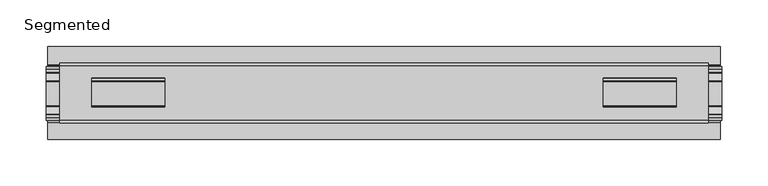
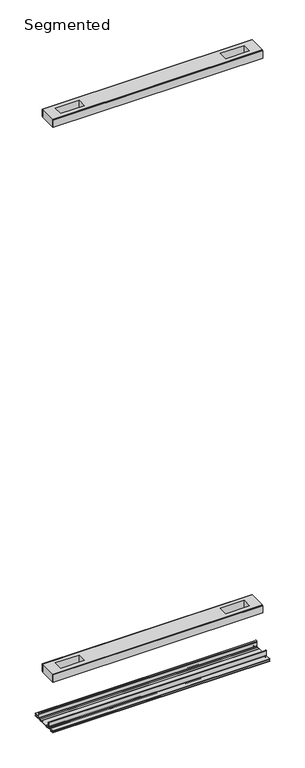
"""IFC4 building model written with IfcOpenShell, lengths in millimetres: proxy geometry, Frame-Teknion-FHCRA-Horizontal_Rail-R2022 : Segmented."""

from ifc_helpers import new_model, si_unit, point, frame, frame_2d, origin, place, context, project, spatial, polyline, circle_curve, trimmed, segment, composite_curve, outline, extrude, source, transform, mapped, element, save


def segmented_118885c7(model_context):
    return source(origin(), model_context, "Body", "SweptSolid", [
        extrude(outline(polyline([(349.1865091, 29.0068005), (-349.1865091, 29.0068005), (-349.1865091, 32.1817997), (349.1865091, 32.1817997), (349.1865091, 29.0068005)])), frame((0.0, 0.0, 2107.0117561), z_axis=(0.0, 0.0, 1.0), x_axis=(1.0, 0.0, 0.0)), (0.0, 0.0, 1.0), 25.3999939),
        extrude(outline(polyline([(349.1865091, -32.1817997), (-349.1865091, -32.1817997), (-349.1865091, -29.0068005), (349.1865091, -29.0068005), (349.1865091, -32.1817997)])), frame((0.0, 0.0, 2107.0117561), z_axis=(0.0, 0.0, 1.0), x_axis=(1.0, 0.0, 0.0)), (0.0, 0.0, 1.0), 25.3999939),
        extrude(outline(polyline([(349.1865091, -29.0068005), (-349.1865091, -29.0068005), (-349.1865091, 29.0068005), (349.1865091, 29.0068005), (349.1865091, -29.0068005)]), holes=[polyline([(314.7694965, -15.1130038), (314.7694965, 15.875003), (235.7246847, 15.875003), (235.7246847, -15.1130038), (314.7694965, -15.1130038)]), polyline([(-314.7694965, -15.1130038), (-235.7246847, -15.1130038), (-235.7246847, 15.875003), (-314.7694965, 15.875003), (-314.7694965, -15.1130038)])]), frame((0.0, 0.0, 2105.5901786), z_axis=(0.0, 0.0, 1.0), x_axis=(1.0, 0.0, 0.0)), (0.0, 0.0, 1.0), 27.9999988),
        extrude(outline(polyline([(349.1865091, 29.0068005), (-349.1865091, 29.0068005), (-349.1865091, 32.1817997), (349.1865091, 32.1817997), (349.1865091, 29.0068005)])), frame((0.0, 0.0, 149.8401622), z_axis=(0.0, 0.0, 1.0), x_axis=(1.0, 0.0, 0.0)), (0.0, 0.0, 1.0), 25.3999939),
        extrude(outline(polyline([(349.1865091, -32.1817997), (-349.1865091, -32.1817997), (-349.1865091, -29.0068005), (349.1865091, -29.0068005), (349.1865091, -32.1817997)])), frame((0.0, 0.0, 149.8401622), z_axis=(0.0, 0.0, 1.0), x_axis=(1.0, 0.0, 0.0)), (0.0, 0.0, 1.0), 25.3999939),
        extrude(outline(polyline([(349.1865091, -29.0068005), (-349.1865091, -29.0068005), (-349.1865091, 29.0068005), (349.1865091, 29.0068005), (349.1865091, -29.0068005)]), holes=[polyline([(314.7694965, -15.1130038), (314.7694965, 15.875003), (235.7246847, 15.875003), (235.7246847, -15.1130038), (314.7694965, -15.1130038)]), polyline([(-314.7694965, -15.1130038), (-235.7246847, -15.1130038), (-235.7246847, 15.875003), (-314.7694965, 15.875003), (-314.7694965, -15.1130038)])]), frame((0.0, 0.0, 148.4185847), z_axis=(0.0, 0.0, 1.0), x_axis=(1.0, 0.0, 0.0)), (0.0, 0.0, 1.0), 27.9999988),
        extrude(outline(composite_curve([segment(trimmed(circle_curve(frame_2d((26.6420561, -7.7516037)), 2.17424), [point((28.8162961, -7.7516037))], [point((26.6420561, -9.9258438))], False, "CARTESIAN"), True, "CONTINUOUS"), segment(polyline([(26.6420561, -9.9258438), (22.3510694, -9.9258438)]), True, "CONTINUOUS"), segment(trimmed(circle_curve(frame_2d((17.7706549, -6.4800016)), 5.7318431), [point((22.3510694, -9.9258438))], [point((13.1902404, -9.9258438))], False, "CARTESIAN"), True, "CONTINUOUS"), segment(polyline([(13.1902404, -9.9258438), (-13.57124, -9.9258438)]), True, "CONTINUOUS"), segment(trimmed(circle_curve(frame_2d((-18.1516545, -6.4800016)), 5.7318431), [point((-13.57124, -9.9258438))], [point((-22.732069, -9.9258438))], False, "CARTESIAN"), True, "CONTINUOUS"), segment(polyline([(-22.732069, -9.9258438), (-27.0230557, -9.9258438)]), True, "CONTINUOUS"), segment(trimmed(circle_curve(frame_2d((-27.0230557, -7.7516037)), 2.17424), [point((-27.0230557, -9.9258438))], [point((-29.1972958, -7.7516037))], False, "CARTESIAN"), True, "CONTINUOUS"), segment(polyline([(-29.1972958, -7.7516037), (-29.1972958, 9.8607558)]), True, "CONTINUOUS"), segment(trimmed(circle_curve(frame_2d((-27.9780978, 9.8607558)), 1.2191979), [point((-29.1972958, 9.8607558))], [point((-26.7588999, 9.8607558))], False, "CARTESIAN"), True, "CONTINUOUS"), segment(polyline([(-26.7588999, 9.8607558), (-26.7588999, 5.9999563), (-28.0390765, 5.9999563), (-28.0390765, -7.7516037)]), True, "CONTINUOUS"), segment(trimmed(circle_curve(frame_2d((-27.0230557, -7.7516037)), 1.0160208), [point((-28.0390765, -7.7516037))], [point((-27.0295728, -8.7676036))], True, "CARTESIAN"), True, "CONTINUOUS"), segment(polyline([(-27.0295728, -8.7676036), (-23.0866222, -8.7676036), (-22.1732605, -8.968753)]), True, "CONTINUOUS"), segment(trimmed(circle_curve(frame_2d((-18.1483018, -6.1259382)), 4.9276657), [point((-22.1732605, -8.968753))], [point((-14.123343, -8.968753))], True, "CARTESIAN"), True, "CONTINUOUS"), segment(polyline([(-14.123343, -8.968753), (-13.2099722, -8.7676036), (12.8289726, -8.7676036), (13.7423434, -8.968753)]), True, "CONTINUOUS"), segment(trimmed(circle_curve(frame_2d((17.7673021, -6.1259382)), 4.9276657), [point((13.7423434, -8.968753))], [point((21.7922609, -8.968753))], True, "CARTESIAN"), True, "CONTINUOUS"), segment(polyline([(21.7922609, -8.968753), (22.7056226, -8.7676036), (26.6485732, -8.7676036)]), True, "CONTINUOUS"), segment(trimmed(circle_curve(frame_2d((26.6420561, -7.7516037)), 1.0160208), [point((26.6485732, -8.7676036))], [point((27.6580769, -7.7516037))], True, "CARTESIAN"), True, "CONTINUOUS"), segment(polyline([(27.6580769, -7.7516037), (27.6580769, 5.9999563), (26.3779003, 5.9999563), (26.3779003, 9.8607558)]), True, "CONTINUOUS"), segment(trimmed(circle_curve(frame_2d((27.5970982, 9.8607558)), 1.2191979), [point((26.3779003, 9.8607558))], [point((28.8162961, 9.8607558))], False, "CARTESIAN"), True, "CONTINUOUS"), segment(polyline([(28.8162961, 9.8607558), (28.8162961, -7.7516037)]), True, "CONTINUOUS")], self_intersect=False)), frame((-363.2454, 0.0, 0.0), z_axis=(1.0, 0.0, 0.0), x_axis=(0.0, 1.0, 0.0)), (0.0, 0.0, 1.0), 726.4908),
        extrude(outline(composite_curve([segment(polyline([(50.2668422, -13.9898438), (39.6557522, -13.9898438)]), True, "CONTINUOUS"), segment(trimmed(circle_curve(frame_2d((39.6557522, -12.4658438)), 1.524), [point((39.6557522, -13.9898438))], [point((38.1317522, -12.4658438))], False, "CARTESIAN"), True, "CONTINUOUS"), segment(polyline([(38.1317522, -12.4658438), (38.1317522, -7.766844), (31.3054974, -7.766844), (31.3054974, -10.0528438)]), True, "CONTINUOUS"), segment(trimmed(circle_curve(frame_2d((29.7814974, -10.0528438)), 1.524), [point((31.3054974, -10.0528438))], [point((29.7814974, -11.5768438))], False, "CARTESIAN"), True, "CONTINUOUS"), segment(polyline([(29.7814974, -11.5768438), (23.2753553, -11.5768438)]), True, "CONTINUOUS"), segment(trimmed(circle_curve(frame_2d((17.7673021, -6.4968436)), 7.4930002), [point((23.2753553, -11.5768438))], [point((12.5094972, -11.8354331))], False, "CARTESIAN"), True, "CONTINUOUS"), segment(polyline([(12.5094972, -11.8354331), (-12.8904968, -11.8354331)]), True, "CONTINUOUS"), segment(trimmed(circle_curve(frame_2d((-18.1483018, -6.4968436)), 7.4930002), [point((-12.8904968, -11.8354331))], [point((-23.6563549, -11.5768438))], False, "CARTESIAN"), True, "CONTINUOUS"), segment(polyline([(-23.6563549, -11.5768438), (-30.1624971, -11.5768438)]), True, "CONTINUOUS"), segment(trimmed(circle_curve(frame_2d((-30.1624971, -10.0528438)), 1.524), [point((-30.1624971, -11.5768438))], [point((-31.686497, -10.0528438))], False, "CARTESIAN"), True, "CONTINUOUS"), segment(polyline([(-31.686497, -10.0528438), (-31.686497, -7.766844), (-38.5127519, -7.766844), (-38.5127519, -12.4658438)]), True, "CONTINUOUS"), segment(trimmed(circle_curve(frame_2d((-40.0367518, -12.4658438)), 1.524), [point((-38.5127519, -12.4658438))], [point((-40.0367518, -13.9898438))], False, "CARTESIAN"), True, "CONTINUOUS"), segment(polyline([(-40.0367518, -13.9898438), (-50.00625, -13.9898438), (-50.00625, -12.3388438), (-40.1637503, -12.3388438), (-40.1637503, -7.766844), (-50.00625, -7.766844), (-50.00625, -6.1158439), (-31.6239218, -6.1158439)]), True, "CONTINUOUS"), segment(trimmed(circle_curve(frame_2d((-31.6864982, -7.7656583)), 1.6510007), [point((-31.6239218, -6.1158439))], [point((-30.0354975, -7.7656583))], False, "CARTESIAN"), True, "CONTINUOUS"), segment(polyline([(-30.0354975, -7.7656583), (-30.0354975, -9.9258438), (-23.486834, -9.9258438)]), True, "CONTINUOUS"), segment(trimmed(circle_curve(frame_2d((-18.1483018, -5.2268471)), 7.1119966), [point((-23.486834, -9.9258438))], [point((-12.8097695, -9.9258438))], True, "CARTESIAN"), True, "CONTINUOUS"), segment(polyline([(-12.8097695, -9.9258438), (12.4287699, -9.9258438)]), True, "CONTINUOUS"), segment(trimmed(circle_curve(frame_2d((17.7673021, -5.2268471)), 7.1119966), [point((12.4287699, -9.9258438))], [point((23.1058344, -9.9258438))], True, "CARTESIAN"), True, "CONTINUOUS"), segment(polyline([(23.1058344, -9.9258438), (29.6544978, -9.9258438), (29.6544978, -7.6398436)]), True, "CONTINUOUS"), segment(trimmed(circle_curve(frame_2d((31.1784975, -7.6398436)), 1.5239997), [point((29.6544978, -7.6398436))], [point((31.1784975, -6.1158439))], False, "CARTESIAN"), True, "CONTINUOUS"), segment(polyline([(31.1784975, -6.1158439), (50.2668422, -6.1158439), (50.2240211, -7.766844), (39.7827507, -7.766844), (39.7827507, -12.3388438), (50.2240211, -12.3388438), (50.2668422, -13.9898438)]), True, "CONTINUOUS")], self_intersect=False)), frame((-361.5944, 0.0, 0.0), z_axis=(1.0, 0.0, 0.0), x_axis=(0.0, 1.0, 0.0)), (0.0, 0.0, 1.0), 723.1888),
    ])


if __name__ == "__main__":
    model = new_model("IFC4")
    model_context = context("Model", 3, world=origin())
    ifc_project = project(units=[si_unit("LENGTHUNIT", "METRE", prefix="MILLI")], contexts=[model_context])
    site = spatial("IfcSite", under=ifc_project)
    building = spatial("IfcBuilding", under=site)
    placement = place(None, origin())
    segmented_shape = segmented_118885c7(model_context)
    element("IfcBuildingElementProxy", 1, Name="Frame-Teknion-FHCRA-Horizontal_Rail-R2022 : Segmented", ObjectType="Frame-Teknion-FHCRA-Horizontal_Rail-R2022 : Segmented", at=placement, inside=building, context=model_context, shape_type="MappedRepresentation", body=[
        mapped(segmented_shape, transform((0.0, 0.0, 0.0), x_axis=(1.0, 0.0, 0.0), y_axis=(0.0, 1.0, 0.0), z_axis=(0.0, 0.0, 1.0))),
    ])
    save(model, "model.ifc")
